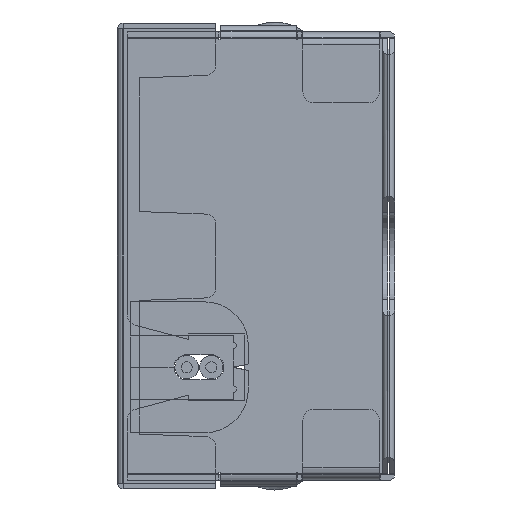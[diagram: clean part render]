
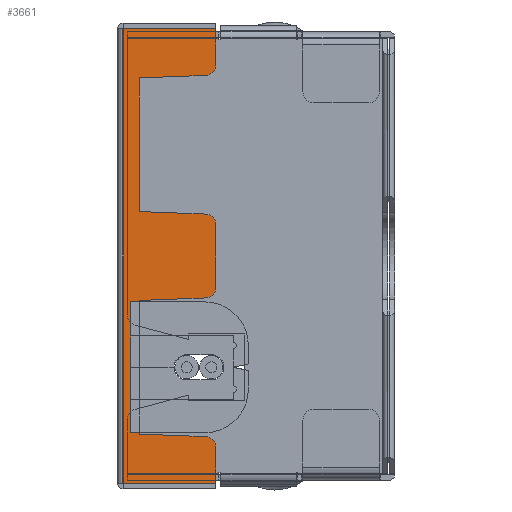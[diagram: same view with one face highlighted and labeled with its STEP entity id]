
A CAD part, left-side view. The second image highlights one B-rep face of the part: STEP entity #3661.
In plain terms, the highlighted planar face has unit normal (-1, 0, 0).
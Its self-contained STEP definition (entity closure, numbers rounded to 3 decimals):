
#71 = VERTEX_POINT ( 'NONE', #1873 ) ;
#386 = EDGE_LOOP ( 'NONE', ( #19998, #1650, #10080, #1311, #2830, #782, #11551, #1679, #11155, #5968, #15109, #13791, #14179, #11715, #11657, #18706 ) ) ;
#445 = LINE ( 'NONE', #16472, #7436 ) ;
#638 = DIRECTION ( 'NONE',  ( 0., -1., 0. ) ) ;
#782 = ORIENTED_EDGE ( 'NONE', *, *, #1564, .T. ) ;
#1018 = EDGE_CURVE ( 'NONE', #71, #12337, #12353, .T. ) ;
#1144 = DIRECTION ( 'NONE',  ( 0., -0.999, 0.038 ) ) ;
#1250 = LINE ( 'NONE', #9470, #13508 ) ;
#1299 = CARTESIAN_POINT ( 'NONE',  ( -106.4, -1.5, 4.075 ) ) ;
#1311 = ORIENTED_EDGE ( 'NONE', *, *, #10446, .T. ) ;
#1367 = VERTEX_POINT ( 'NONE', #18853 ) ;
#1515 = CARTESIAN_POINT ( 'NONE',  ( -106.4, -8.5, -16.594 ) ) ;
#1564 = EDGE_CURVE ( 'NONE', #12709, #16897, #11056, .T. ) ;
#1650 = ORIENTED_EDGE ( 'NONE', *, *, #1945, .T. ) ;
#1679 = ORIENTED_EDGE ( 'NONE', *, *, #8491, .F. ) ;
#1873 = CARTESIAN_POINT ( 'NONE',  ( -106.4, -1.5, -16.325 ) ) ;
#1921 = AXIS2_PLACEMENT_3D ( 'NONE', #18277, #16217, #638 ) ;
#1945 = EDGE_CURVE ( 'NONE', #4195, #17121, #10295, .T. ) ;
#2509 = CARTESIAN_POINT ( 'NONE',  ( -106.4, -1.5, 4.075 ) ) ;
#2830 = ORIENTED_EDGE ( 'NONE', *, *, #4751, .T. ) ;
#2956 = VECTOR ( 'NONE', #10981, 1000. ) ;
#3025 = EDGE_CURVE ( 'NONE', #6397, #12846, #6503, .T. ) ;
#3035 = CARTESIAN_POINT ( 'NONE',  ( -106.4, -7.635, -3.839 ) ) ;
#3108 = VERTEX_POINT ( 'NONE', #9088 ) ;
#3531 = EDGE_CURVE ( 'NONE', #6397, #7237, #7505, .T. ) ;
#3661 = ADVANCED_FACE ( 'NONE', ( #7744 ), #6807, .T. ) ;
#3729 = CARTESIAN_POINT ( 'NONE',  ( -106.4, -8.5, -20.84 ) ) ;
#3752 = EDGE_CURVE ( 'NONE', #3108, #16956, #9244, .T. ) ;
#4195 = VERTEX_POINT ( 'NONE', #17803 ) ;
#4338 = DIRECTION ( 'NONE',  ( 0., 0.999, 0.038 ) ) ;
#4560 = CARTESIAN_POINT ( 'NONE',  ( -106.4, -7.6, -17.46 ) ) ;
#4715 = CARTESIAN_POINT ( 'NONE',  ( -106.4, -8.5, -20.84 ) ) ;
#4751 = EDGE_CURVE ( 'NONE', #9757, #12709, #8452, .T. ) ;
#5185 = DIRECTION ( 'NONE',  ( 0., 1., 0. ) ) ;
#5187 = EDGE_CURVE ( 'NONE', #1367, #16897, #6660, .T. ) ;
#5190 = DIRECTION ( 'NONE',  ( 0., 0., -1. ) ) ;
#5968 = ORIENTED_EDGE ( 'NONE', *, *, #11199, .F. ) ;
#6000 = VECTOR ( 'NONE', #16388, 1000. ) ;
#6103 = DIRECTION ( 'NONE',  ( 0., -1., 0. ) ) ;
#6378 = DIRECTION ( 'NONE',  ( 0., -0.999, -0.038 ) ) ;
#6397 = VERTEX_POINT ( 'NONE', #3035 ) ;
#6503 = CIRCLE ( 'NONE', #20735, 0.9 ) ;
#6561 = LINE ( 'NONE', #11913, #8823 ) ;
#6660 = LINE ( 'NONE', #4715, #2956 ) ;
#6807 = PLANE ( 'NONE',  #1921 ) ;
#7166 = CIRCLE ( 'NONE', #17532, 0.9 ) ;
#7237 = VERTEX_POINT ( 'NONE', #19641 ) ;
#7436 = VECTOR ( 'NONE', #5185, 1000. ) ;
#7505 = LINE ( 'NONE', #14822, #10512 ) ;
#7744 = FACE_OUTER_BOUND ( 'NONE', #386, .T. ) ;
#8435 = LINE ( 'NONE', #12174, #10681 ) ;
#8452 = LINE ( 'NONE', #13732, #13228 ) ;
#8491 = EDGE_CURVE ( 'NONE', #3108, #1367, #6561, .T. ) ;
#8823 = VECTOR ( 'NONE', #18075, 1000. ) ;
#9053 = CARTESIAN_POINT ( 'NONE',  ( -106.4, -8.5, -17.46 ) ) ;
#9075 = VECTOR ( 'NONE', #6378, 1000. ) ;
#9088 = CARTESIAN_POINT ( 'NONE',  ( -106.4, -0.01, 20.84 ) ) ;
#9183 = CARTESIAN_POINT ( 'NONE',  ( -106.4, -7.635, 16.561 ) ) ;
#9244 = LINE ( 'NONE', #14963, #6000 ) ;
#9393 = CARTESIAN_POINT ( 'NONE',  ( -106.4, -8.5, -2.94 ) ) ;
#9470 = CARTESIAN_POINT ( 'NONE',  ( -106.4, -1.5, 16.325 ) ) ;
#9509 = CARTESIAN_POINT ( 'NONE',  ( -106.4, -7.635, -16.561 ) ) ;
#9757 = VERTEX_POINT ( 'NONE', #11987 ) ;
#10080 = ORIENTED_EDGE ( 'NONE', *, *, #15344, .T. ) ;
#10152 = VERTEX_POINT ( 'NONE', #18699 ) ;
#10295 = CIRCLE ( 'NONE', #19107, 0.9 ) ;
#10393 = CARTESIAN_POINT ( 'NONE',  ( -106.4, -7.635, 3.839 ) ) ;
#10446 = EDGE_CURVE ( 'NONE', #12240, #9757, #1250, .T. ) ;
#10512 = VECTOR ( 'NONE', #18034, 1000. ) ;
#10536 = DIRECTION ( 'NONE',  ( 0., -1., 0. ) ) ;
#10557 = DIRECTION ( 'NONE',  ( 0., 0., -1. ) ) ;
#10681 = VECTOR ( 'NONE', #10557, 1000. ) ;
#10981 = DIRECTION ( 'NONE',  ( 0., 0., -1. ) ) ;
#11056 = CIRCLE ( 'NONE', #14611, 0.9 ) ;
#11155 = ORIENTED_EDGE ( 'NONE', *, *, #3752, .T. ) ;
#11199 = EDGE_CURVE ( 'NONE', #10152, #16956, #445, .T. ) ;
#11551 = ORIENTED_EDGE ( 'NONE', *, *, #5187, .F. ) ;
#11596 = EDGE_CURVE ( 'NONE', #15314, #12337, #7166, .T. ) ;
#11657 = ORIENTED_EDGE ( 'NONE', *, *, #3531, .F. ) ;
#11715 = ORIENTED_EDGE ( 'NONE', *, *, #16408, .F. ) ;
#11913 = CARTESIAN_POINT ( 'NONE',  ( -106.4, -8.5, 20.84 ) ) ;
#11987 = CARTESIAN_POINT ( 'NONE',  ( -106.4, -1.5, 16.325 ) ) ;
#12174 = CARTESIAN_POINT ( 'NONE',  ( -106.4, -1.5, -16.325 ) ) ;
#12240 = VERTEX_POINT ( 'NONE', #1299 ) ;
#12337 = VERTEX_POINT ( 'NONE', #9509 ) ;
#12353 = LINE ( 'NONE', #1515, #9075 ) ;
#12355 = CARTESIAN_POINT ( 'NONE',  ( -106.4, -7.6, -2.94 ) ) ;
#12423 = CARTESIAN_POINT ( 'NONE',  ( -106.4, -8.5, -20.84 ) ) ;
#12709 = VERTEX_POINT ( 'NONE', #9183 ) ;
#12790 = DIRECTION ( 'NONE',  ( 0., -1., 0. ) ) ;
#12846 = VERTEX_POINT ( 'NONE', #9393 ) ;
#13128 = CARTESIAN_POINT ( 'NONE',  ( -106.4, -7.6, 17.46 ) ) ;
#13228 = VECTOR ( 'NONE', #1144, 1000. ) ;
#13433 = CARTESIAN_POINT ( 'NONE',  ( -106.4, -8.5, 17.46 ) ) ;
#13508 = VECTOR ( 'NONE', #14310, 1000. ) ;
#13732 = CARTESIAN_POINT ( 'NONE',  ( -106.4, -8.5, 16.594 ) ) ;
#13750 = VECTOR ( 'NONE', #4338, 1000. ) ;
#13791 = ORIENTED_EDGE ( 'NONE', *, *, #11596, .T. ) ;
#14179 = ORIENTED_EDGE ( 'NONE', *, *, #1018, .F. ) ;
#14310 = DIRECTION ( 'NONE',  ( 0., 0., 1. ) ) ;
#14611 = AXIS2_PLACEMENT_3D ( 'NONE', #13128, #16287, #14648 ) ;
#14648 = DIRECTION ( 'NONE',  ( 0., -1., 0. ) ) ;
#14822 = CARTESIAN_POINT ( 'NONE',  ( -106.4, -1.5, -4.075 ) ) ;
#14963 = CARTESIAN_POINT ( 'NONE',  ( -106.4, -0.01, -20.84 ) ) ;
#15109 = ORIENTED_EDGE ( 'NONE', *, *, #16204, .F. ) ;
#15314 = VERTEX_POINT ( 'NONE', #9053 ) ;
#15344 = EDGE_CURVE ( 'NONE', #17121, #12240, #18052, .T. ) ;
#15913 = EDGE_CURVE ( 'NONE', #4195, #12846, #18280, .T. ) ;
#15969 = LINE ( 'NONE', #3729, #18012 ) ;
#16204 = EDGE_CURVE ( 'NONE', #15314, #10152, #15969, .T. ) ;
#16217 = DIRECTION ( 'NONE',  ( -1., 0., 0. ) ) ;
#16287 = DIRECTION ( 'NONE',  ( -1., 0., 0. ) ) ;
#16388 = DIRECTION ( 'NONE',  ( 0., 0., -1. ) ) ;
#16408 = EDGE_CURVE ( 'NONE', #7237, #71, #8435, .T. ) ;
#16472 = CARTESIAN_POINT ( 'NONE',  ( -106.4, 0., -20.84 ) ) ;
#16678 = CARTESIAN_POINT ( 'NONE',  ( -106.4, -0.01, -20.84 ) ) ;
#16897 = VERTEX_POINT ( 'NONE', #13433 ) ;
#16956 = VERTEX_POINT ( 'NONE', #16678 ) ;
#17121 = VERTEX_POINT ( 'NONE', #10393 ) ;
#17532 = AXIS2_PLACEMENT_3D ( 'NONE', #4560, #19116, #12790 ) ;
#17803 = CARTESIAN_POINT ( 'NONE',  ( -106.4, -8.5, 2.94 ) ) ;
#18012 = VECTOR ( 'NONE', #5190, 1000. ) ;
#18034 = DIRECTION ( 'NONE',  ( 0., 0.999, -0.038 ) ) ;
#18052 = LINE ( 'NONE', #2509, #13750 ) ;
#18075 = DIRECTION ( 'NONE',  ( 0., -1., 0. ) ) ;
#18277 = CARTESIAN_POINT ( 'NONE',  ( -106.4, 0., -20.84 ) ) ;
#18280 = LINE ( 'NONE', #12423, #19015 ) ;
#18608 = DIRECTION ( 'NONE',  ( 0., 0., -1. ) ) ;
#18699 = CARTESIAN_POINT ( 'NONE',  ( -106.4, -8.5, -20.84 ) ) ;
#18706 = ORIENTED_EDGE ( 'NONE', *, *, #3025, .T. ) ;
#18853 = CARTESIAN_POINT ( 'NONE',  ( -106.4, -8.5, 20.84 ) ) ;
#19015 = VECTOR ( 'NONE', #18608, 1000. ) ;
#19107 = AXIS2_PLACEMENT_3D ( 'NONE', #20043, #20175, #10536 ) ;
#19116 = DIRECTION ( 'NONE',  ( -1., 0., 0. ) ) ;
#19641 = CARTESIAN_POINT ( 'NONE',  ( -106.4, -1.5, -4.075 ) ) ;
#19998 = ORIENTED_EDGE ( 'NONE', *, *, #15913, .F. ) ;
#20043 = CARTESIAN_POINT ( 'NONE',  ( -106.4, -7.6, 2.94 ) ) ;
#20175 = DIRECTION ( 'NONE',  ( -1., 0., 0. ) ) ;
#20567 = DIRECTION ( 'NONE',  ( -1., 0., 0. ) ) ;
#20735 = AXIS2_PLACEMENT_3D ( 'NONE', #12355, #20567, #6103 ) ;
